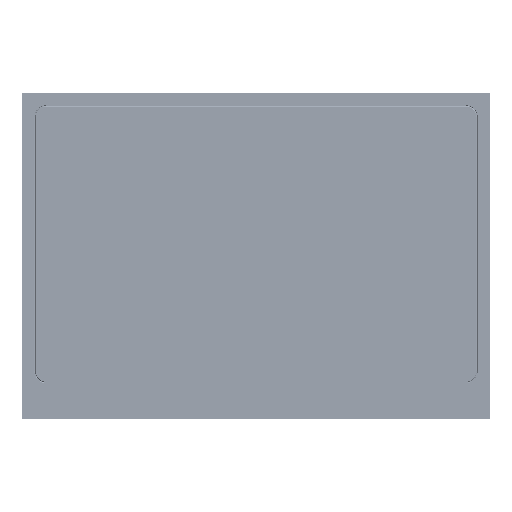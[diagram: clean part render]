
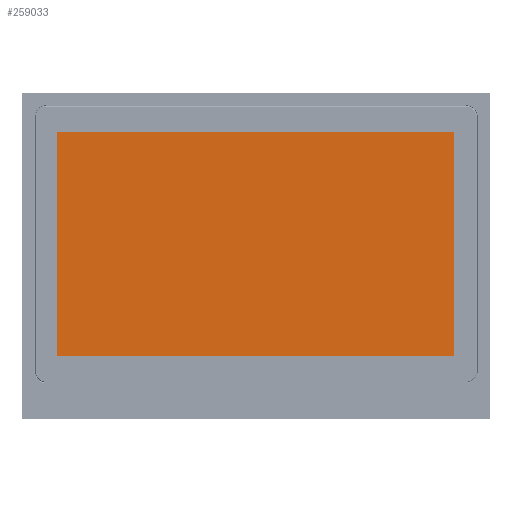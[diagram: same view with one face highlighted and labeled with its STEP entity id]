
A CAD part, top view. The second image highlights one B-rep face of the part: STEP entity #259033.
In plain terms, the highlighted planar face has unit normal (0, 0, 1).
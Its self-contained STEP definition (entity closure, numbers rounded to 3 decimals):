
#24190=FACE_OUTER_BOUND('',#38034,.T.);
#38034=EDGE_LOOP('',(#207275,#207276,#207277,#207278));
#61551=LINE('',#423070,#88656);
#61554=LINE('',#423076,#88659);
#61557=LINE('',#423082,#88662);
#61560=LINE('',#423086,#88665);
#88656=VECTOR('',#324753,10.);
#88659=VECTOR('',#324758,10.);
#88662=VECTOR('',#324763,10.);
#88665=VECTOR('',#324768,10.);
#112677=VERTEX_POINT('',#423067);
#112678=VERTEX_POINT('',#423069);
#112680=VERTEX_POINT('',#423075);
#112682=VERTEX_POINT('',#423081);
#145507=EDGE_CURVE('',#112678,#112677,#61551,.T.);
#145510=EDGE_CURVE('',#112680,#112678,#61554,.T.);
#145513=EDGE_CURVE('',#112682,#112680,#61557,.T.);
#145516=EDGE_CURVE('',#112677,#112682,#61560,.T.);
#207275=ORIENTED_EDGE('',*,*,#145507,.T.);
#207276=ORIENTED_EDGE('',*,*,#145516,.T.);
#207277=ORIENTED_EDGE('',*,*,#145513,.T.);
#207278=ORIENTED_EDGE('',*,*,#145510,.T.);
#235933=PLANE('',#274966);
#259033=ADVANCED_FACE('',(#24190),#235933,.T.);
#274966=AXIS2_PLACEMENT_3D('',#423169,#324857,#324858);
#324753=DIRECTION('',(1.,0.,0.));
#324758=DIRECTION('',(0.,-1.,0.));
#324763=DIRECTION('',(-1.,0.,0.));
#324768=DIRECTION('',(0.,1.,0.));
#324857=DIRECTION('center_axis',(0.,0.,
1.));
#324858=DIRECTION('ref_axis',(-1.,0.,0.));
#423067=CARTESIAN_POINT('',(204.85,-103.1,6.199));
#423069=CARTESIAN_POINT('',(-205.35,-103.1,6.199));
#423070=CARTESIAN_POINT('',(-0.125,-103.1,6.199));
#423075=CARTESIAN_POINT('',(-205.35,127.7,6.199));
#423076=CARTESIAN_POINT('',(-205.35,-45.45,6.199));
#423081=CARTESIAN_POINT('',(204.85,127.7,6.199));
#423082=CARTESIAN_POINT('',(-102.675,127.7,6.199));
#423086=CARTESIAN_POINT('',(204.85,12.25,6.199));
#423169=CARTESIAN_POINT('Origin',(0.,12.2,
6.199));
